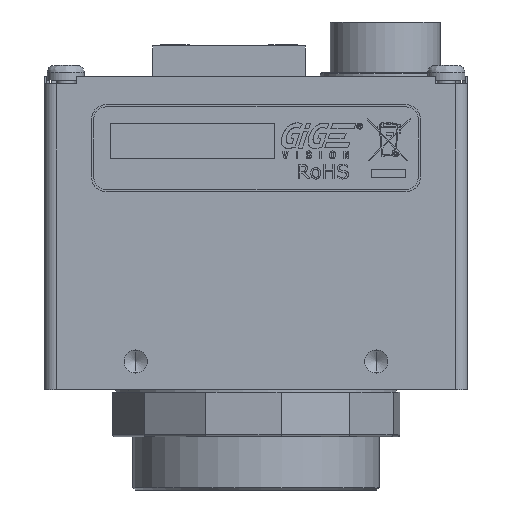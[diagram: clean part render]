
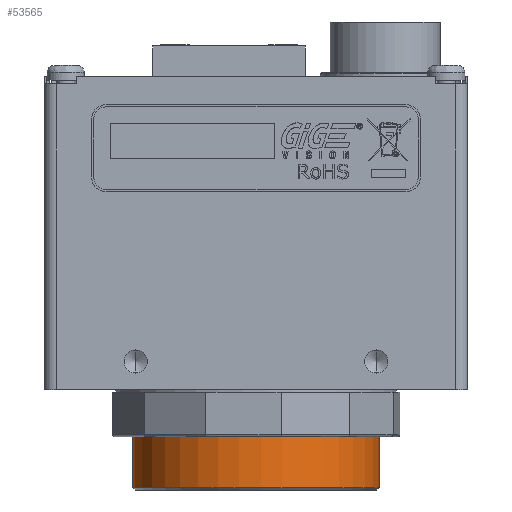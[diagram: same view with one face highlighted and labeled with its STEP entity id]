
A CAD part, front view. The second image highlights one B-rep face of the part: STEP entity #53565.
In plain terms, the highlighted cylindrical face has radius 13.335 mm (diameter 26.67 mm), a partial arc.
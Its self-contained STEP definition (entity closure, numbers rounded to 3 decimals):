
#4878 = ORIENTED_EDGE ( 'NONE', *, *, #21573, .F. ) ;
#21573 = EDGE_CURVE ( 'NONE', #43855, #101433, #44479, .T. ) ;
#23829 = ORIENTED_EDGE ( 'NONE', *, *, #179458, .T. ) ;
#36440 = ORIENTED_EDGE ( 'NONE', *, *, #178177, .T. ) ;
#39416 = VECTOR ( 'NONE', #204748, 1000. ) ;
#43855 = VERTEX_POINT ( 'NONE', #109566 ) ;
#44479 = LINE ( 'NONE', #202333, #39416 ) ;
#50194 = DIRECTION ( 'NONE',  ( 0., 0., 1. ) ) ;
#53565 = ADVANCED_FACE ( 'NONE', ( #76843 ), #183381, .T. ) ;
#60533 = CARTESIAN_POINT ( 'NONE',  ( 13.335, 0., 7.214 ) ) ;
#65645 = DIRECTION ( 'NONE',  ( 0., 0., -1. ) ) ;
#71632 = CARTESIAN_POINT ( 'NONE',  ( 13.335, 0., 13.386 ) ) ;
#76843 = FACE_OUTER_BOUND ( 'NONE', #131540, .T. ) ;
#80288 = VERTEX_POINT ( 'NONE', #71632 ) ;
#86963 = DIRECTION ( 'NONE',  ( 0., 0., 1. ) ) ;
#101433 = VERTEX_POINT ( 'NONE', #112857 ) ;
#109566 = CARTESIAN_POINT ( 'NONE',  ( -13.335, 0., 7.214 ) ) ;
#112857 = CARTESIAN_POINT ( 'NONE',  ( -13.335, 0., 13.386 ) ) ;
#117678 = CARTESIAN_POINT ( 'NONE',  ( 13.335, 0., 7.214 ) ) ;
#127873 = CIRCLE ( 'NONE', #139867, 13.335 ) ;
#131423 = EDGE_CURVE ( 'NONE', #150292, #80288, #186998, .T. ) ;
#131540 = EDGE_LOOP ( 'NONE', ( #4878, #23829, #173424, #36440 ) ) ;
#139867 = AXIS2_PLACEMENT_3D ( 'NONE', #145778, #50194, #161720 ) ;
#145205 = VECTOR ( 'NONE', #86963, 1000. ) ;
#145778 = CARTESIAN_POINT ( 'NONE',  ( 0., 0., 7.214 ) ) ;
#150292 = VERTEX_POINT ( 'NONE', #60533 ) ;
#161002 = CARTESIAN_POINT ( 'NONE',  ( 0., 0., 13.386 ) ) ;
#161720 = DIRECTION ( 'NONE',  ( 1., 0., 0. ) ) ;
#162327 = AXIS2_PLACEMENT_3D ( 'NONE', #190788, #191439, #189453 ) ;
#173424 = ORIENTED_EDGE ( 'NONE', *, *, #131423, .T. ) ;
#173828 = CIRCLE ( 'NONE', #192176, 13.335 ) ;
#176694 = DIRECTION ( 'NONE',  ( 1., 0., 0. ) ) ;
#178177 = EDGE_CURVE ( 'NONE', #80288, #101433, #173828, .T. ) ;
#179458 = EDGE_CURVE ( 'NONE', #43855, #150292, #127873, .T. ) ;
#183381 = CYLINDRICAL_SURFACE ( 'NONE', #162327, 13.335 ) ;
#186998 = LINE ( 'NONE', #117678, #145205 ) ;
#189453 = DIRECTION ( 'NONE',  ( 1., 0., 0. ) ) ;
#190788 = CARTESIAN_POINT ( 'NONE',  ( 0., 0., 7.214 ) ) ;
#191439 = DIRECTION ( 'NONE',  ( 0., 0., 1. ) ) ;
#192176 = AXIS2_PLACEMENT_3D ( 'NONE', #161002, #65645, #176694 ) ;
#202333 = CARTESIAN_POINT ( 'NONE',  ( -13.335, 0., 7.214 ) ) ;
#204748 = DIRECTION ( 'NONE',  ( 0., 0., 1. ) ) ;
